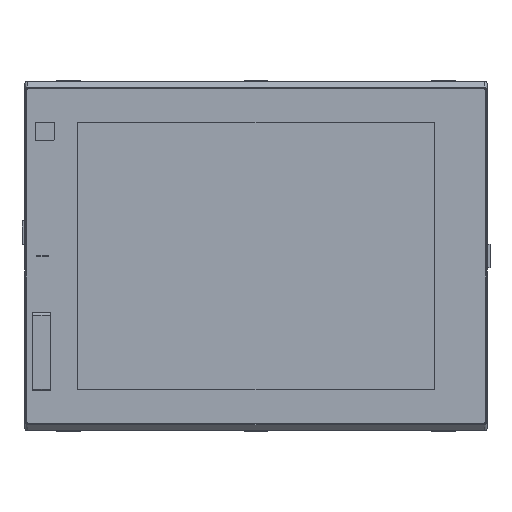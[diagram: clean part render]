
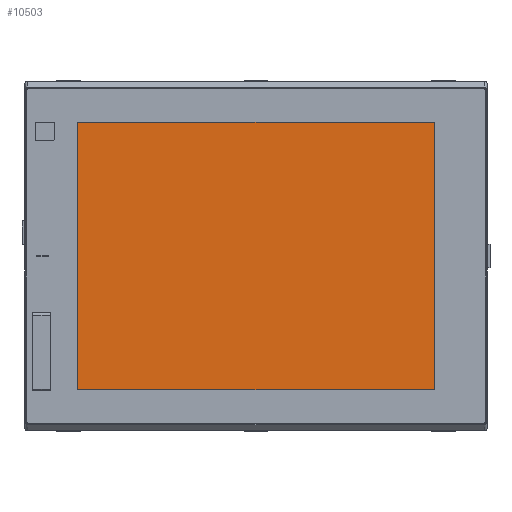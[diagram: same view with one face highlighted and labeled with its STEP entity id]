
A CAD part, top view. The second image highlights one B-rep face of the part: STEP entity #10503.
In plain terms, the highlighted planar face has unit normal (0, 0, 1).
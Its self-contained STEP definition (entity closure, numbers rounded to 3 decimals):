
#1613=CARTESIAN_POINT('',(152.05,114.05,-0.575));
#1614=DIRECTION('',(0.,0.,-1.));
#1615=DIRECTION('',(0.,1.,0.));
#1616=AXIS2_PLACEMENT_3D('',#1613,#1614,#1615);
#1618=DIRECTION('',(0.,-1.,0.));
#1619=VECTOR('',#1618,228.1);
#1620=CARTESIAN_POINT('',(153.05,114.05,-0.575));
#1621=LINE('',#1620,#1619);
#1622=CARTESIAN_POINT('',(152.05,-114.05,-0.575));
#1623=DIRECTION('',(0.,0.,-1.));
#1624=DIRECTION('',(1.,0.,0.));
#1625=AXIS2_PLACEMENT_3D('',#1622,#1623,#1624);
#1627=DIRECTION('',(-1.,0.,0.));
#1628=VECTOR('',#1627,304.1);
#1629=CARTESIAN_POINT('',(152.05,-115.05,-0.575));
#1630=LINE('',#1629,#1628);
#1631=CARTESIAN_POINT('',(-152.05,-114.05,-0.575));
#1632=DIRECTION('',(0.,0.,-1.));
#1633=DIRECTION('',(0.,-1.,0.));
#1634=AXIS2_PLACEMENT_3D('',#1631,#1632,#1633);
#1636=DIRECTION('',(0.,1.,0.));
#1637=VECTOR('',#1636,228.1);
#1638=CARTESIAN_POINT('',(-153.05,-114.05,-0.575));
#1639=LINE('',#1638,#1637);
#1640=CARTESIAN_POINT('',(-152.05,114.05,-0.575));
#1641=DIRECTION('',(0.,0.,-1.));
#1642=DIRECTION('',(-1.,0.,0.));
#1643=AXIS2_PLACEMENT_3D('',#1640,#1641,#1642);
#1645=DIRECTION('',(1.,0.,0.));
#1646=VECTOR('',#1645,304.1);
#1647=CARTESIAN_POINT('',(-152.05,115.05,-0.575));
#1648=LINE('',#1647,#1646);
#8276=CARTESIAN_POINT('',(152.05,115.05,-0.575));
#8277=CARTESIAN_POINT('',(153.05,114.05,-0.575));
#8278=VERTEX_POINT('',#8276);
#8279=VERTEX_POINT('',#8277);
#8280=CARTESIAN_POINT('',(-152.05,115.05,-0.575));
#8281=VERTEX_POINT('',#8280);
#8282=CARTESIAN_POINT('',(-153.05,114.05,-0.575));
#8283=VERTEX_POINT('',#8282);
#8284=CARTESIAN_POINT('',(-153.05,-114.05,-0.575));
#8285=VERTEX_POINT('',#8284);
#8286=CARTESIAN_POINT('',(-152.05,-115.05,-0.575));
#8287=VERTEX_POINT('',#8286);
#8288=CARTESIAN_POINT('',(152.05,-115.05,-0.575));
#8289=VERTEX_POINT('',#8288);
#8290=CARTESIAN_POINT('',(153.05,-114.05,-0.575));
#8291=VERTEX_POINT('',#8290);
#10488=CARTESIAN_POINT('',(0.,0.,-0.575));
#10489=DIRECTION('',(0.,0.,1.));
#10490=DIRECTION('',(1.,0.,0.));
#10491=AXIS2_PLACEMENT_3D('',#10488,#10489,#10490);
#10492=PLANE('',#10491);
#10493=ORIENTED_EDGE('',*,*,#10384,.T.);
#10494=ORIENTED_EDGE('',*,*,#10399,.T.);
#10495=ORIENTED_EDGE('',*,*,#10413,.T.);
#10496=ORIENTED_EDGE('',*,*,#10427,.T.);
#10497=ORIENTED_EDGE('',*,*,#10441,.T.);
#10498=ORIENTED_EDGE('',*,*,#10455,.T.);
#10499=ORIENTED_EDGE('',*,*,#10469,.T.);
#10500=ORIENTED_EDGE('',*,*,#10482,.T.);
#10501=EDGE_LOOP('',(#10493,#10494,#10495,#10496,#10497,#10498,#10499,#10500));
#10502=FACE_OUTER_BOUND('',#10501,.F.);
#10503=ADVANCED_FACE('',(#10502),#10492,.T.);
#1617=CIRCLE('',#1616,1.);
#1626=CIRCLE('',#1625,1.);
#1635=CIRCLE('',#1634,1.);
#1644=CIRCLE('',#1643,1.);
#10384=EDGE_CURVE('',#8278,#8279,#1617,.T.);
#10399=EDGE_CURVE('',#8279,#8291,#1621,.T.);
#10413=EDGE_CURVE('',#8291,#8289,#1626,.T.);
#10427=EDGE_CURVE('',#8289,#8287,#1630,.T.);
#10441=EDGE_CURVE('',#8287,#8285,#1635,.T.);
#10455=EDGE_CURVE('',#8285,#8283,#1639,.T.);
#10469=EDGE_CURVE('',#8283,#8281,#1644,.T.);
#10482=EDGE_CURVE('',#8281,#8278,#1648,.T.);
